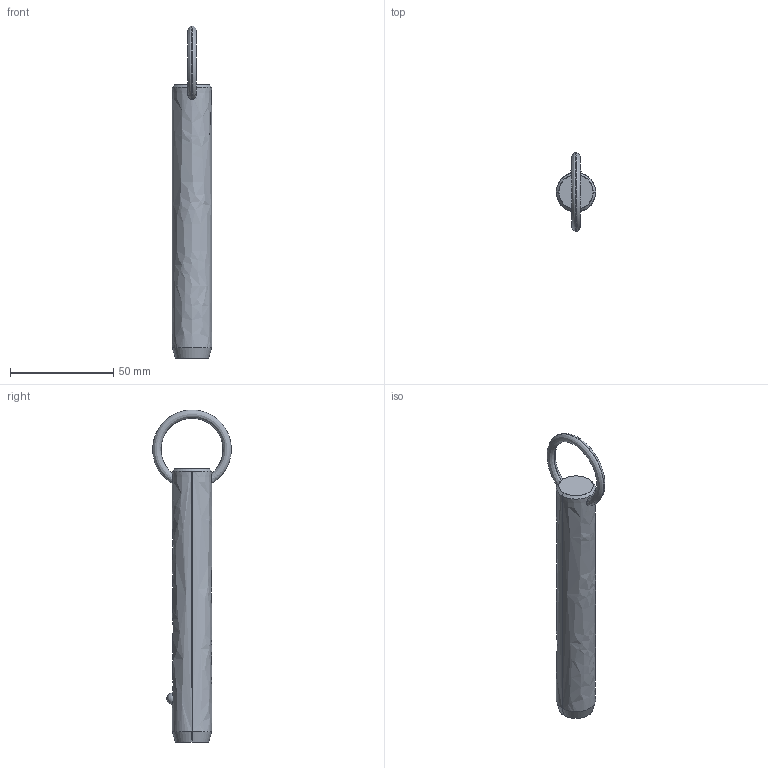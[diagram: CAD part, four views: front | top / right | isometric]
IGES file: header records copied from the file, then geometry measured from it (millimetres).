
Start section: SolidWorks IGES file using analytic representation for surfaces
Global section: file name: C:\Users\liam_\OneDrive\Documents\WORK\Work for WixRoyd\Job Files\J-00019 - Matt Davis CAD Checking\04. CAD Drawings\automotion20190605\P1250.2_v2\P1250.2_v2_20190729_IGES\P1250.075-390.igs; native system: SolidWorks 2017; preprocessor: SolidWorks 2017; author: liam_; date: 190729.235342; units: millimetre
Bounding box: 19 x 38.09 x 160.9 mm (x, y, z)
Surface area: 9429.8 mm2 (no closed solid volume)
Topology: 0 solids, 0 shells, 12 faces, 294 edges, 292 vertices
Faces by surface type: revolution 8, bspline 4
